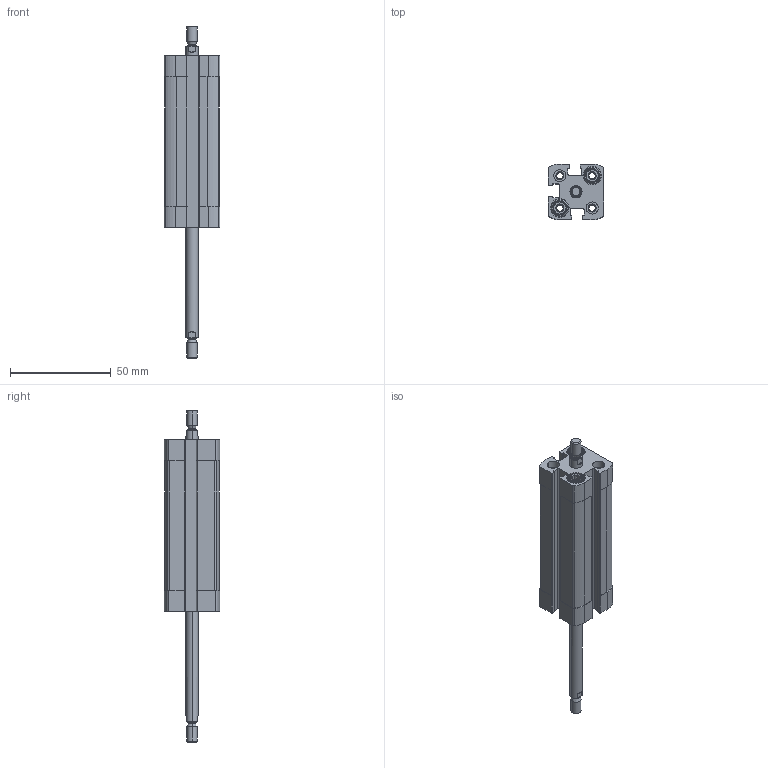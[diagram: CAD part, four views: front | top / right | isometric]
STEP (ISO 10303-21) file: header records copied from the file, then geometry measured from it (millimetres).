
FILE_DESCRIPTION (( 'STEP AP203' ), '1' );
FILE_NAME ('CCN12-50-P.STEP', '2020-06-22T18:35:26', ( '' ), ( '' ), 'SwSTEP 2.0', 'SolidWorks 2019', '' );
FILE_SCHEMA (( 'CONFIG_CONTROL_DESIGN' ));
Length unit declared in the file: millimetre
Products named in the file (1): CCN12-50-P
Bounding box: 27.5 x 27.5 x 164.5 mm (x, y, z)
Volume: 45945.3 mm3; surface area: 24714.3 mm2
Topology: 2 solids, 2 shells, 384 faces, 976 edges, 632 vertices
Faces by surface type: plane 192, cylinder 140, cone 44, torus 8
Entity records: 11783 total; most frequent: CARTESIAN_POINT 2293, DIRECTION 1986, ORIENTED_EDGE 1952, EDGE_CURVE 976, AXIS2_PLACEMENT_3D 725, VERTEX_POINT 632, LINE 536, VECTOR 536
